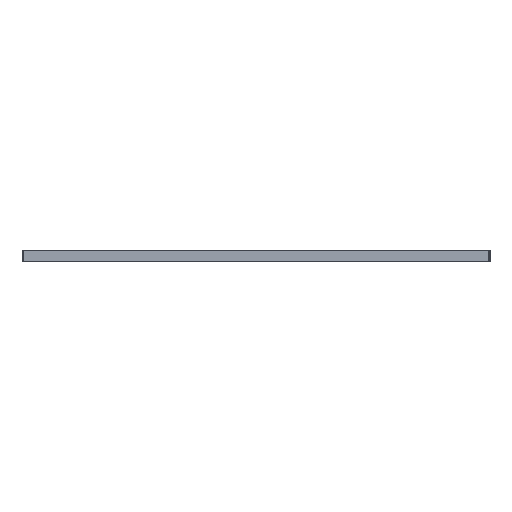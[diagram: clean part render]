
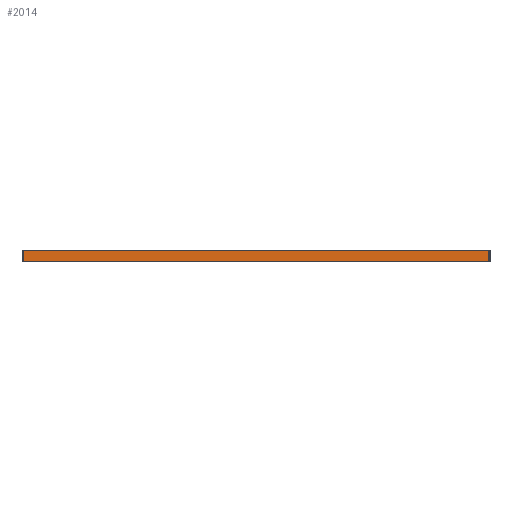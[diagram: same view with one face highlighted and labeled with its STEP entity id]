
A CAD part, left-side view. The second image highlights one B-rep face of the part: STEP entity #2014.
In plain terms, the highlighted free-form (B-spline) face has degree [2, 1] with [3, 2] control points.
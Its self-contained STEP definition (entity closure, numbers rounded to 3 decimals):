
#2014=ADVANCED_FACE('',(#4020),#72734,.T.);
#4020=FACE_OUTER_BOUND('',#6112,.T.);
#6112=EDGE_LOOP('',(#16488,#16489,#16490,#16491));
#16488=ORIENTED_EDGE('',*,*,#53050,.T.);
#16489=ORIENTED_EDGE('',*,*,#53051,.T.);
#16490=ORIENTED_EDGE('',*,*,#53052,.T.);
#16491=ORIENTED_EDGE('',*,*,#53048,.F.);
#18834=(
BOUNDED_CURVE()
B_SPLINE_CURVE(1,(#161273,#161274),.UNSPECIFIED.,.F.,.F.)
B_SPLINE_CURVE_WITH_KNOTS((2,2),(0.,3000.),.UNSPECIFIED.)
CURVE()
GEOMETRIC_REPRESENTATION_ITEM()
RATIONAL_B_SPLINE_CURVE((1.,1.))
REPRESENTATION_ITEM('')
);
#18836=(
BOUNDED_CURVE()
B_SPLINE_CURVE(2,(#161284,#161285,#161286),.UNSPECIFIED.,.F.,.F.)
B_SPLINE_CURVE_WITH_KNOTS((3,3),(-509.152,-435.152),
 .UNSPECIFIED.)
CURVE()
GEOMETRIC_REPRESENTATION_ITEM()
RATIONAL_B_SPLINE_CURVE((1.,1.,1.))
REPRESENTATION_ITEM('')
);
#18837=(
BOUNDED_CURVE()
B_SPLINE_CURVE(1,(#161289,#161290),.UNSPECIFIED.,.F.,.F.)
B_SPLINE_CURVE_WITH_KNOTS((2,2),(0.,3000.),.UNSPECIFIED.)
CURVE()
GEOMETRIC_REPRESENTATION_ITEM()
RATIONAL_B_SPLINE_CURVE((1.,1.))
REPRESENTATION_ITEM('')
);
#18838=(
BOUNDED_CURVE()
B_SPLINE_CURVE(2,(#161293,#161294,#161295),.UNSPECIFIED.,.F.,.F.)
B_SPLINE_CURVE_WITH_KNOTS((3,3),(435.152,509.152),
 .UNSPECIFIED.)
CURVE()
GEOMETRIC_REPRESENTATION_ITEM()
RATIONAL_B_SPLINE_CURVE((1.,1.,1.))
REPRESENTATION_ITEM('')
);
#18957=(
BOUNDED_CURVE()
B_SPLINE_CURVE(2,(#161922,#161923,#161924),.UNSPECIFIED.,.F.,.F.)
B_SPLINE_CURVE_WITH_KNOTS((3,3),(-509.152,-435.152),
 .UNSPECIFIED.)
CURVE()
GEOMETRIC_REPRESENTATION_ITEM()
RATIONAL_B_SPLINE_CURVE((1.,1.,1.))
REPRESENTATION_ITEM('')
);
#19048=(
BOUNDED_CURVE()
B_SPLINE_CURVE(2,(#162243,#162244,#162245),.UNSPECIFIED.,.F.,.F.)
B_SPLINE_CURVE_WITH_KNOTS((3,3),(435.152,509.152),
 .UNSPECIFIED.)
CURVE()
GEOMETRIC_REPRESENTATION_ITEM()
RATIONAL_B_SPLINE_CURVE((1.,1.,1.))
REPRESENTATION_ITEM('')
);
#29857=PCURVE('',#72733,#41141);
#29860=PCURVE('',#72734,#41144);
#29861=PCURVE('',#72734,#41145);
#29862=PCURVE('',#72734,#41146);
#29863=PCURVE('',#72734,#41147);
#29867=PCURVE('',#72735,#41151);
#30018=PCURVE('',#73974,#41302);
#30107=PCURVE('',#73975,#41391);
#41141=DEFINITIONAL_REPRESENTATION('',(#67625),#165305);
#41144=DEFINITIONAL_REPRESENTATION('',(#67628),#165305);
#41145=DEFINITIONAL_REPRESENTATION('',(#67629),#165305);
#41146=DEFINITIONAL_REPRESENTATION('',(#67630),#165305);
#41147=DEFINITIONAL_REPRESENTATION('',(#67631),#165305);
#41151=DEFINITIONAL_REPRESENTATION('',(#67635),#165305);
#41302=DEFINITIONAL_REPRESENTATION('',(#18957),#165305);
#41391=DEFINITIONAL_REPRESENTATION('',(#19048),#165305);
#47406=SURFACE_CURVE('',#18834,(#29857,#29863),.PCURVE_S1.);
#47408=SURFACE_CURVE('',#18836,(#29860,#30018),.PCURVE_S1.);
#47409=SURFACE_CURVE('',#18837,(#29861,#29867),.PCURVE_S1.);
#47410=SURFACE_CURVE('',#18838,(#29862,#30107),.PCURVE_S1.);
#53048=EDGE_CURVE('',#71694,#71695,#47406,.T.);
#53050=EDGE_CURVE('',#71694,#71696,#47408,.T.);
#53051=EDGE_CURVE('',#71696,#71697,#47409,.T.);
#53052=EDGE_CURVE('',#71697,#71695,#47410,.T.);
#67625=B_SPLINE_CURVE_WITH_KNOTS('',1,(#161275,#161276),.UNSPECIFIED.,.F.,
 .F.,(2,2),(0.,3000.),.UNSPECIFIED.);
#67628=B_SPLINE_CURVE_WITH_KNOTS('',1,(#161287,#161288),.UNSPECIFIED.,.F.,
 .F.,(2,2),(-509.152,-435.152),.UNSPECIFIED.);
#67629=B_SPLINE_CURVE_WITH_KNOTS('',1,(#161291,#161292),.UNSPECIFIED.,.F.,
 .F.,(2,2),(0.,3000.),.UNSPECIFIED.);
#67630=B_SPLINE_CURVE_WITH_KNOTS('',1,(#161296,#161297),.UNSPECIFIED.,.F.,
 .F.,(2,2),(435.152,509.152),.UNSPECIFIED.);
#67631=B_SPLINE_CURVE_WITH_KNOTS('',1,(#161298,#161299),.UNSPECIFIED.,.F.,
 .F.,(2,2),(0.,3000.),.UNSPECIFIED.);
#67635=B_SPLINE_CURVE_WITH_KNOTS('',1,(#161314,#161315),.UNSPECIFIED.,.F.,
 .F.,(2,2),(0.,3000.),.UNSPECIFIED.);
#71694=VERTEX_POINT('',#159426);
#71695=VERTEX_POINT('',#159427);
#71696=VERTEX_POINT('',#159428);
#71697=VERTEX_POINT('',#159429);
#72733=(
BOUNDED_SURFACE()
B_SPLINE_SURFACE(2,1,((#158426,#158427),(#158428,#158429),(#158430,#158431)),
 .UNSPECIFIED.,.F.,.F.,.F.)
B_SPLINE_SURFACE_WITH_KNOTS((3,3),(2,2),(-509.937,-509.152),
(0.,3000.),.UNSPECIFIED.)
GEOMETRIC_REPRESENTATION_ITEM()
RATIONAL_B_SPLINE_SURFACE(((1.,1.),(0.707,0.707),
(1.,1.)))
REPRESENTATION_ITEM('')
SURFACE()
);
#72734=(
BOUNDED_SURFACE()
B_SPLINE_SURFACE(2,1,((#158432,#158433),(#158434,#158435),(#158436,#158437)),
 .UNSPECIFIED.,.F.,.F.,.F.)
B_SPLINE_SURFACE_WITH_KNOTS((3,3),(2,2),(-509.152,-435.152),
(0.,3000.),.UNSPECIFIED.)
GEOMETRIC_REPRESENTATION_ITEM()
RATIONAL_B_SPLINE_SURFACE(((1.,1.),(1.,1.),(1.,1.)))
REPRESENTATION_ITEM('')
SURFACE()
);
#72735=(
BOUNDED_SURFACE()
B_SPLINE_SURFACE(2,1,((#158438,#158439),(#158440,#158441),(#158442,#158443)),
 .UNSPECIFIED.,.F.,.F.,.F.)
B_SPLINE_SURFACE_WITH_KNOTS((3,3),(2,2),(-435.152,-434.366),
(0.,3000.),.UNSPECIFIED.)
GEOMETRIC_REPRESENTATION_ITEM()
RATIONAL_B_SPLINE_SURFACE(((1.,1.),(0.707,0.707),
(1.,1.)))
REPRESENTATION_ITEM('')
SURFACE()
);
#73974=B_SPLINE_SURFACE_WITH_KNOTS('',1,1,((#159188,#159189),(#159190,#159191)),
 .UNSPECIFIED.,.F.,.F.,.F.,(2,2),(2,2),(-34.998,58.752),
(-52.575,16.175),.UNSPECIFIED.);
#73975=B_SPLINE_SURFACE_WITH_KNOTS('',1,1,((#159192,#159193),(#159194,#159195)),
 .UNSPECIFIED.,.F.,.F.,.F.,(2,2),(2,2),(-52.575,16.175),(-34.998,
58.752),.UNSPECIFIED.);
#158426=CARTESIAN_POINT('',(-27.,-1500.,0.));
#158427=CARTESIAN_POINT('',(-27.,1500.,0.));
#158428=CARTESIAN_POINT('',(-27.5,-1500.,0.));
#158429=CARTESIAN_POINT('',(-27.5,1500.,0.));
#158430=CARTESIAN_POINT('',(-27.5,-1500.,0.5));
#158431=CARTESIAN_POINT('',(-27.5,1500.,0.5));
#158432=CARTESIAN_POINT('',(-27.5,-1500.,0.5));
#158433=CARTESIAN_POINT('',(-27.5,1500.,0.5));
#158434=CARTESIAN_POINT('',(-27.5,-1500.,37.5));
#158435=CARTESIAN_POINT('',(-27.5,1500.,37.5));
#158436=CARTESIAN_POINT('',(-27.5,-1500.,74.5));
#158437=CARTESIAN_POINT('',(-27.5,1500.,74.5));
#158438=CARTESIAN_POINT('',(-27.5,-1500.,74.5));
#158439=CARTESIAN_POINT('',(-27.5,1500.,74.5));
#158440=CARTESIAN_POINT('',(-27.5,-1500.,75.));
#158441=CARTESIAN_POINT('',(-27.5,1500.,75.));
#158442=CARTESIAN_POINT('',(-27.,-1500.,75.));
#158443=CARTESIAN_POINT('',(-27.,1500.,75.));
#159188=CARTESIAN_POINT('',(34.375,-1500.,-9.375));
#159189=CARTESIAN_POINT('',(-34.375,-1500.,-9.375));
#159190=CARTESIAN_POINT('',(34.375,-1500.,84.375));
#159191=CARTESIAN_POINT('',(-34.375,-1500.,84.375));
#159192=CARTESIAN_POINT('',(34.375,1500.,-9.375));
#159193=CARTESIAN_POINT('',(34.375,1500.,84.375));
#159194=CARTESIAN_POINT('',(-34.375,1500.,-9.375));
#159195=CARTESIAN_POINT('',(-34.375,1500.,84.375));
#159426=CARTESIAN_POINT('',(-27.5,-1500.,0.5));
#159427=CARTESIAN_POINT('',(-27.5,1500.,0.5));
#159428=CARTESIAN_POINT('',(-27.5,-1500.,74.5));
#159429=CARTESIAN_POINT('',(-27.5,1500.,74.5));
#161273=CARTESIAN_POINT('',(-27.5,-1500.,0.5));
#161274=CARTESIAN_POINT('',(-27.5,1500.,0.5));
#161275=CARTESIAN_POINT('',(-509.152,0.));
#161276=CARTESIAN_POINT('',(-509.152,3000.));
#161284=CARTESIAN_POINT('',(-27.5,-1500.,0.5));
#161285=CARTESIAN_POINT('',(-27.5,-1500.,37.5));
#161286=CARTESIAN_POINT('',(-27.5,-1500.,74.5));
#161287=CARTESIAN_POINT('',(-509.152,0.));
#161288=CARTESIAN_POINT('',(-435.152,0.));
#161289=CARTESIAN_POINT('',(-27.5,-1500.,74.5));
#161290=CARTESIAN_POINT('',(-27.5,1500.,74.5));
#161291=CARTESIAN_POINT('',(-435.152,0.));
#161292=CARTESIAN_POINT('',(-435.152,3000.));
#161293=CARTESIAN_POINT('',(-27.5,1500.,74.5));
#161294=CARTESIAN_POINT('',(-27.5,1500.,37.5));
#161295=CARTESIAN_POINT('',(-27.5,1500.,0.5));
#161296=CARTESIAN_POINT('',(-435.152,3000.));
#161297=CARTESIAN_POINT('',(-509.152,3000.));
#161298=CARTESIAN_POINT('',(-509.152,0.));
#161299=CARTESIAN_POINT('',(-509.152,3000.));
#161314=CARTESIAN_POINT('',(-435.152,0.));
#161315=CARTESIAN_POINT('',(-435.152,3000.));
#161922=CARTESIAN_POINT('',(-25.123,9.3));
#161923=CARTESIAN_POINT('',(11.877,9.3));
#161924=CARTESIAN_POINT('',(48.877,9.3));
#162243=CARTESIAN_POINT('',(9.3,48.877));
#162244=CARTESIAN_POINT('',(9.3,11.877));
#162245=CARTESIAN_POINT('',(9.3,-25.123));
#165305=(
GEOMETRIC_REPRESENTATION_CONTEXT(2)
PARAMETRIC_REPRESENTATION_CONTEXT()
REPRESENTATION_CONTEXT('pspace','')
);
